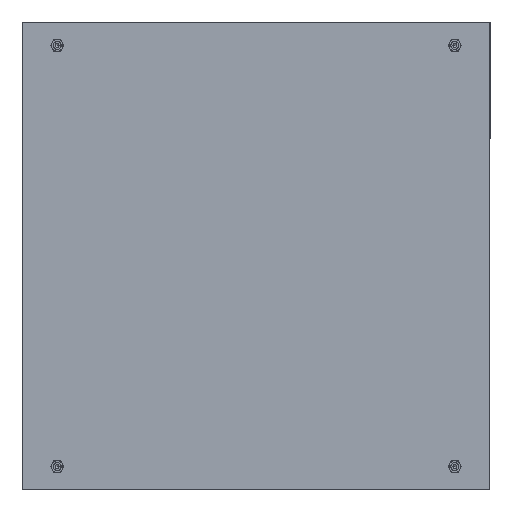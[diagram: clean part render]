
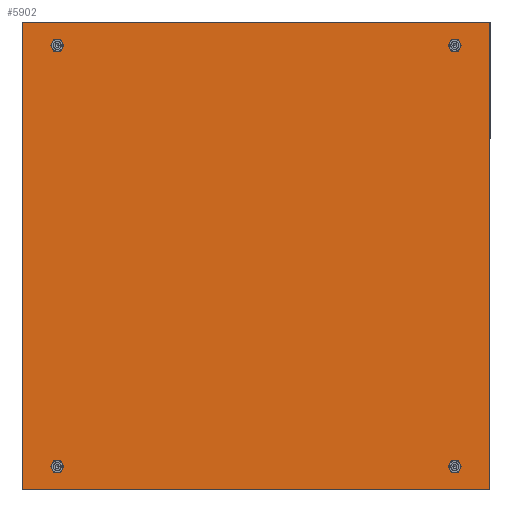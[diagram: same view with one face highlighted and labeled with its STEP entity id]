
A CAD part, left-side view. The second image highlights one B-rep face of the part: STEP entity #5902.
In plain terms, the highlighted planar face has unit normal (-1, 0, 0).
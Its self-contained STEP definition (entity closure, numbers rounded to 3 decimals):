
#470=CIRCLE('',#7708,5.125);
#472=CIRCLE('',#7711,5.125);
#474=CIRCLE('',#7714,5.125);
#475=CIRCLE('',#7743,5.125);
#1708=ORIENTED_EDGE('',*,*,#2729,.T.);
#1709=ORIENTED_EDGE('',*,*,#2730,.T.);
#1710=ORIENTED_EDGE('',*,*,#2731,.T.);
#1711=ORIENTED_EDGE('',*,*,#2732,.T.);
#1712=ORIENTED_EDGE('',*,*,#2627,.F.);
#1713=ORIENTED_EDGE('',*,*,#2629,.F.);
#1714=ORIENTED_EDGE('',*,*,#2631,.F.);
#1715=ORIENTED_EDGE('',*,*,#2733,.F.);
#2627=EDGE_CURVE('',#3244,#3244,#470,.T.);
#2629=EDGE_CURVE('',#3246,#3246,#472,.T.);
#2631=EDGE_CURVE('',#3248,#3248,#474,.T.);
#2729=EDGE_CURVE('',#3323,#3324,#3893,.T.);
#2730=EDGE_CURVE('',#3324,#3325,#3894,.T.);
#2731=EDGE_CURVE('',#3325,#3326,#3895,.T.);
#2732=EDGE_CURVE('',#3326,#3323,#3896,.T.);
#2733=EDGE_CURVE('',#3327,#3327,#475,.T.);
#3244=VERTEX_POINT('',#10744);
#3246=VERTEX_POINT('',#10749);
#3248=VERTEX_POINT('',#10754);
#3323=VERTEX_POINT('',#10955);
#3324=VERTEX_POINT('',#10956);
#3325=VERTEX_POINT('',#10958);
#3326=VERTEX_POINT('',#10960);
#3327=VERTEX_POINT('',#10963);
#3893=LINE('',#10954,#4465);
#3894=LINE('',#10957,#4466);
#3895=LINE('',#10959,#4467);
#3896=LINE('',#10961,#4468);
#4465=VECTOR('',#9205,1000.);
#4466=VECTOR('',#9206,1000.);
#4467=VECTOR('',#9207,1000.);
#4468=VECTOR('',#9208,1000.);
#4873=EDGE_LOOP('',(#1708,#1709,#1710,#1711));
#4874=EDGE_LOOP('',(#1712));
#4875=EDGE_LOOP('',(#1713));
#4876=EDGE_LOOP('',(#1714));
#4877=EDGE_LOOP('',(#1715));
#5297=FACE_BOUND('',#4873,.T.);
#5298=FACE_BOUND('',#4874,.T.);
#5299=FACE_BOUND('',#4875,.T.);
#5300=FACE_BOUND('',#4876,.T.);
#5301=FACE_BOUND('',#4877,.T.);
#5592=PLANE('',#7742);
#5902=ADVANCED_FACE('',(#5297,#5298,#5299,#5300,#5301),#5592,.T.);
#7708=AXIS2_PLACEMENT_3D('',#10743,#9038,#9039);
#7711=AXIS2_PLACEMENT_3D('',#10748,#9044,#9045);
#7714=AXIS2_PLACEMENT_3D('',#10753,#9050,#9051);
#7742=AXIS2_PLACEMENT_3D('',#10953,#9203,#9204);
#7743=AXIS2_PLACEMENT_3D('',#10962,#9209,#9210);
#9038=DIRECTION('',(-1.,0.,0.));
#9039=DIRECTION('',(0.,-1.,0.));
#9044=DIRECTION('',(-1.,0.,0.));
#9045=DIRECTION('',(0.,-1.,0.));
#9050=DIRECTION('',(-1.,0.,0.));
#9051=DIRECTION('',(0.,-1.,0.));
#9203=DIRECTION('',(-1.,0.,0.));
#9204=DIRECTION('',(0.,-1.,0.));
#9205=DIRECTION('',(0.,-1.,0.));
#9206=DIRECTION('',(0.,0.,1.));
#9207=DIRECTION('',(0.,1.,0.));
#9208=DIRECTION('',(0.,0.,-1.));
#9209=DIRECTION('',(-1.,0.,0.));
#9210=DIRECTION('',(0.,-1.,0.));
#10743=CARTESIAN_POINT('',(-1.2,255.,-270.));
#10744=CARTESIAN_POINT('',(-1.2,249.875,-270.));
#10748=CARTESIAN_POINT('',(-1.2,255.,270.));
#10749=CARTESIAN_POINT('',(-1.2,249.875,270.));
#10753=CARTESIAN_POINT('',(-1.2,-255.,-270.));
#10754=CARTESIAN_POINT('',(-1.2,-260.125,-270.));
#10953=CARTESIAN_POINT('',(-1.2,0.,0.));
#10954=CARTESIAN_POINT('',(-1.2,0.,-300.));
#10955=CARTESIAN_POINT('',(-1.2,300.,-300.));
#10956=CARTESIAN_POINT('',(-1.2,-300.,-300.));
#10957=CARTESIAN_POINT('',(-1.2,-300.,0.));
#10958=CARTESIAN_POINT('',(-1.2,-300.,300.));
#10959=CARTESIAN_POINT('',(-1.2,0.,300.));
#10960=CARTESIAN_POINT('',(-1.2,300.,300.));
#10961=CARTESIAN_POINT('',(-1.2,300.,0.));
#10962=CARTESIAN_POINT('',(-1.2,-255.,270.));
#10963=CARTESIAN_POINT('',(-1.2,-260.125,270.));
